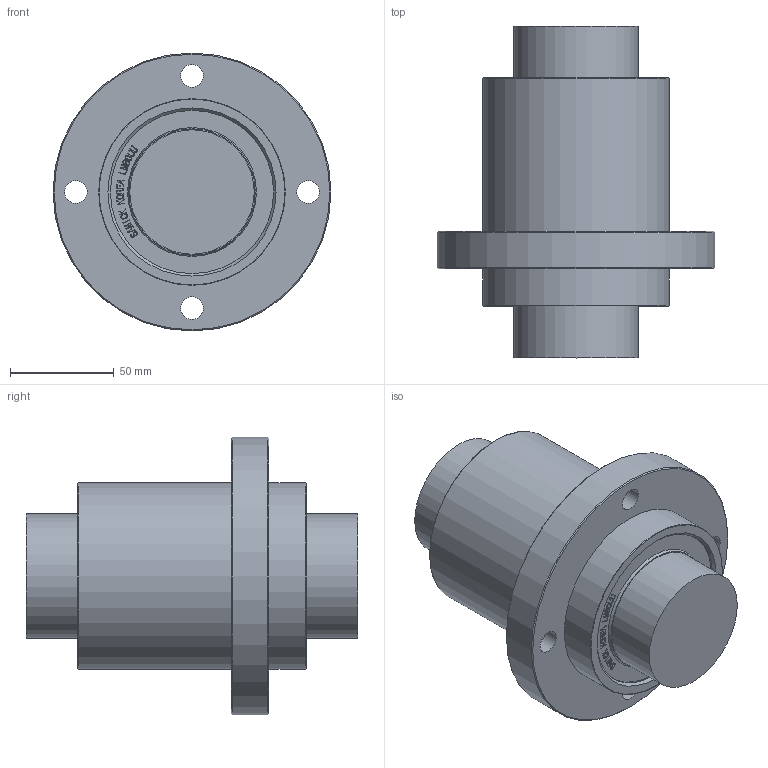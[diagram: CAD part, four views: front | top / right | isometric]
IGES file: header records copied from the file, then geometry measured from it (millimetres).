
Global section: file name: No Iges File Name specified; native system: Autodesk Inventor 2012; preprocessor: AutoDesk Inventor Iges Exporter R2012; author: user2; date: 20130206.161646; units: millimetre
Bounding box: 134 x 160 x 134 mm (x, y, z)
Volume: 959176.6 mm3; surface area: 74828.1 mm2
Topology: 1 solids, 1 shells, 845 faces, 2351 edges, 1566 vertices
Faces by surface type: bspline 600, plane 222, revolution 12, cylinder 5, cone 4, torus 2
Full cylindrical faces by diameter (mm): 60 x2, 90 x2, 134 x1
